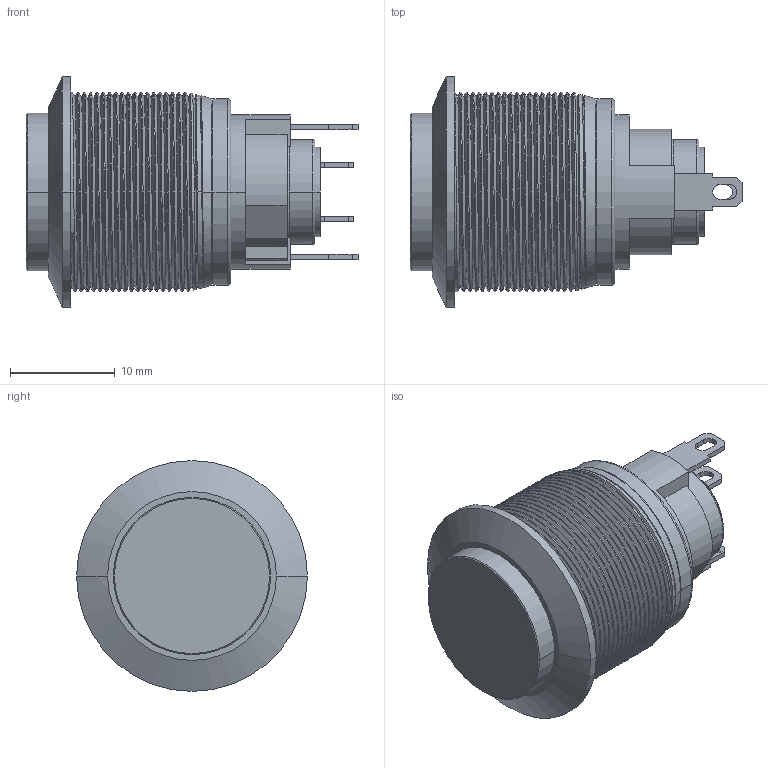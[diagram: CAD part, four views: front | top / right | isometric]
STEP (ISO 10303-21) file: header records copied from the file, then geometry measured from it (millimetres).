
FILE_DESCRIPTION((''),'2;1');
FILE_NAME('AVZ9100EA200_SW0001','2012-04-26T',('jlgachon'),(''),'PRO/ENGINEER BY PARAMETRIC TECHNOLOGY CORPORATION, 2011250','PRO/ENGINEER BY PARAMETRIC TECHNOLOGY CORPORATION, 2011250','');
FILE_SCHEMA(('CONFIG_CONTROL_DESIGN'));
Length unit declared in the file: millimetre
Products named in the file (1): AVZ9100EA200_SW0001
Bounding box: 31.65 x 22 x 22 mm (x, y, z)
Surface area: 5222.6 mm2 (no closed solid volume)
Topology: 0 solids, 16 shells, 399 faces, 1282 edges, 871 vertices
Faces by surface type: plane 231, cylinder 117, cone 17, bspline 12, torus 12, sphere 10
Entity records: 23015 total; most frequent: CARTESIAN_POINT 11906, ORIENTED_EDGE 2249, DIRECTION 2192, EDGE_CURVE 1274, VERTEX_POINT 871, VECTOR 862, LINE 862, AXIS2_PLACEMENT_3D 665
